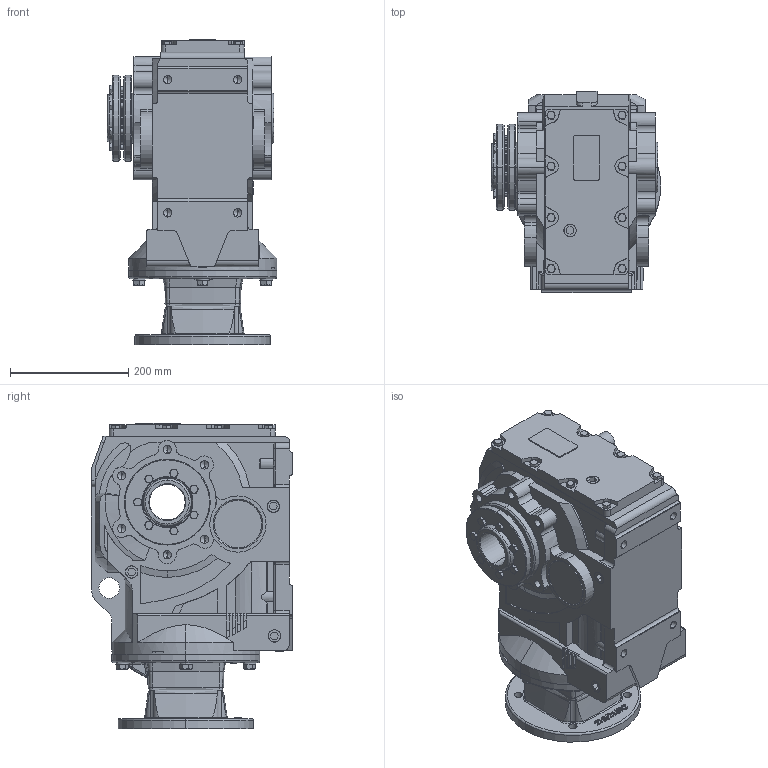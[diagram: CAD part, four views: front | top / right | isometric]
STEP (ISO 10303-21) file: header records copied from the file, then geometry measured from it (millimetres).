
FILE_DESCRIPTION (( 'STEP AP203' ), '1' );
FILE_NAME ('KAN87-213TC-B-POWER LOCK.STEP', '2020-11-25T03:11:42', ( 'Microsoft' ), ( 'Microsoft' ), 'SwSTEP 2.0', 'SolidWorks 2012', '' );
FILE_SCHEMA (( 'CONFIG_CONTROL_DESIGN' ));
Products named in the file (1): KAN87-213TC-B-POWER LOCK
Bounding box: 286 x 340.5 x 515.5 mm (x, y, z)
Volume: 23700740.2 mm3; surface area: 1024963.5 mm2
Topology: 2 solids, 27 shells, 1748 faces, 4444 edges, 2815 vertices
Faces by surface type: plane 707, cylinder 502, cone 334, bspline 149, torus 56
Entity records: 64692 total; most frequent: CARTESIAN_POINT 23298, ORIENTED_EDGE 8752, DIRECTION 8343, EDGE_CURVE 4376, AXIS2_PLACEMENT_3D 3071, VERTEX_POINT 2815, LINE 2201, VECTOR 2201
